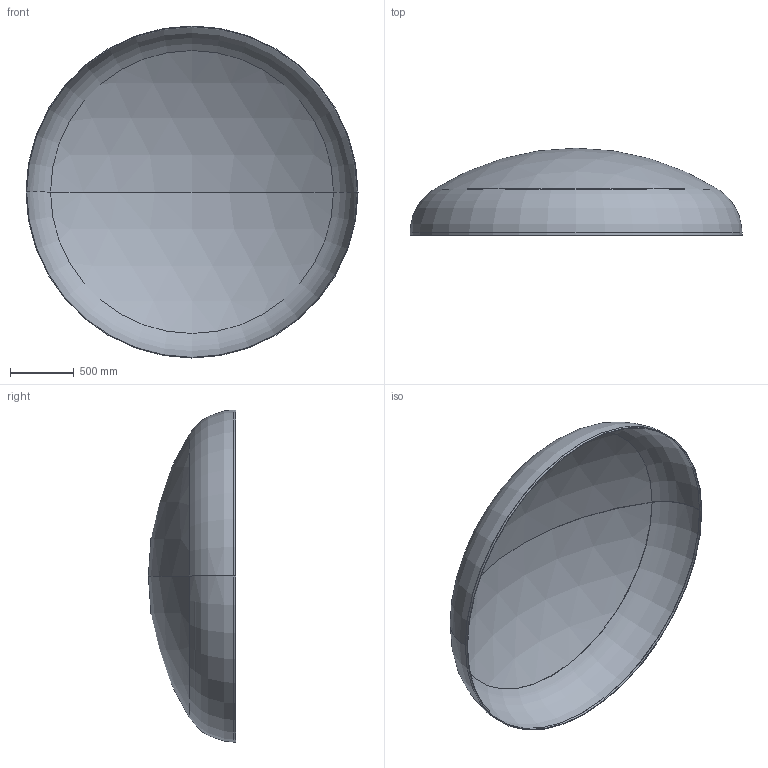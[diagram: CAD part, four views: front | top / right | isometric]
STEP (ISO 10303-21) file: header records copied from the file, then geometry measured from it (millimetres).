
FILE_DESCRIPTION (( 'STEP AP203' ), '1' );
FILE_NAME ('DIN 28013 Korbbogenform_-_Boden DIN 28013 - 2600 x 20 - I - s=5.step', '2016-07-01T15:49:58', ( '' ), ( '' ), 'SwSTEP 2.0', 'SolidWorks 2013', '' );
FILE_SCHEMA (( 'CONFIG_CONTROL_DESIGN' ));
Length unit declared in the file: millimetre
Products named in the file (1): DIN 28013 Korbbogenform_-_Boden DIN 28013 - 2600 x 20 - I - s=5
Bounding box: 2600 x 683.25 x 2600 mm (x, y, z)
Volume: 37484659.3 mm3; surface area: 15034672.1 mm2
Topology: 1 solids, 1 shells, 13 faces, 24 edges, 14 vertices
Faces by surface type: torus 4, cylinder 4, sphere 4, plane 1
Entity records: 407 total; most frequent: DIRECTION 72, CARTESIAN_POINT 52, ORIENTED_EDGE 48, AXIS2_PLACEMENT_3D 34, EDGE_CURVE 24, CIRCLE 20, VERTEX_POINT 14, EDGE_LOOP 14
